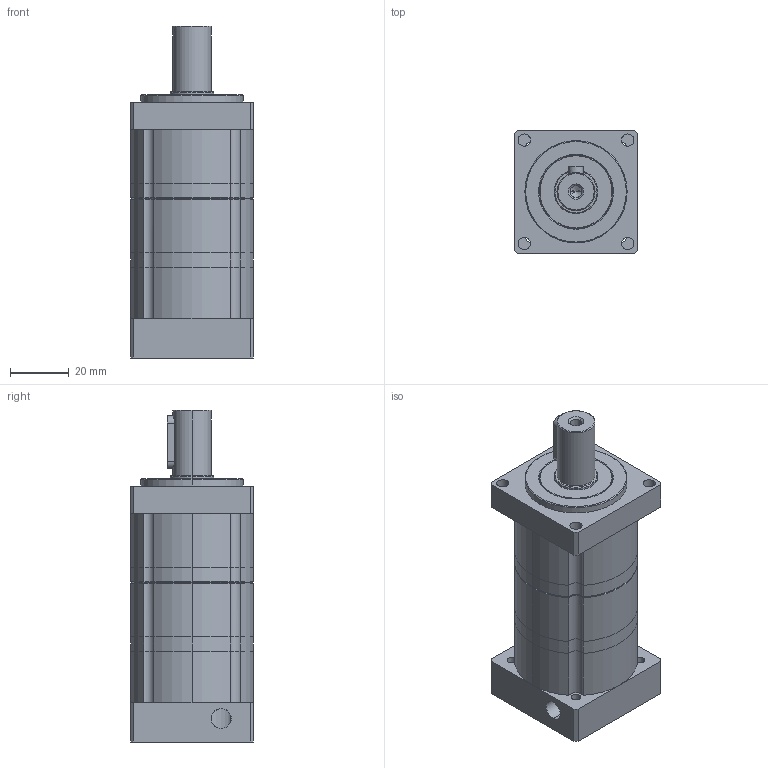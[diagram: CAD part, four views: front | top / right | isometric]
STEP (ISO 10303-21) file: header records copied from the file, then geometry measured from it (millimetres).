
FILE_DESCRIPTION (( 'STEP AP214' ), '1' );
FILE_NAME ('LX-042-025-Rev1.STEP', '2014-06-27T18:00:02', ( '' ), ( '' ), 'SwSTEP 2.0', 'SolidWorks 2014', '' );
FILE_SCHEMA (( 'AUTOMOTIVE_DESIGN' ));
Length unit declared in the file: millimetre
Products named in the file (1): LX-042-025-Rev1
Bounding box: 42 x 42 x 113.5 mm (x, y, z)
Volume: 77584 mm3; surface area: 38296.5 mm2
Topology: 8 solids, 8 shells, 216 faces, 520 edges, 329 vertices
Faces by surface type: cylinder 127, plane 44, cone 43, torus 2
Entity records: 8829 total; most frequent: CARTESIAN_POINT 1243, DIRECTION 1227, ORIENTED_EDGE 1036, EDGE_CURVE 518, AXIS2_PLACEMENT_3D 515, VERTEX_POINT 329, CIRCLE 298, EDGE_LOOP 259
